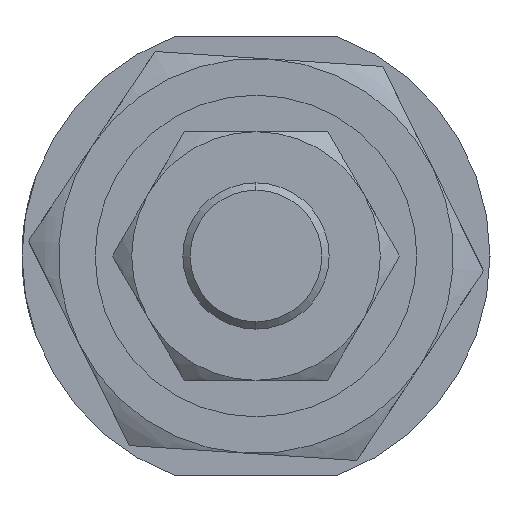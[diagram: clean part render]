
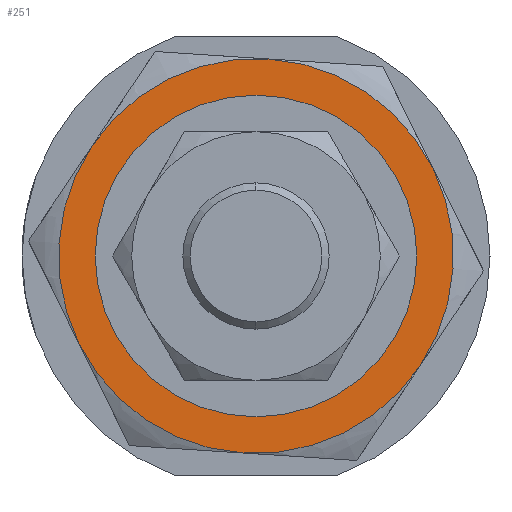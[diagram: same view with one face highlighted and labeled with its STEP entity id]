
A CAD part, left-side view. The second image highlights one B-rep face of the part: STEP entity #251.
In plain terms, the highlighted planar face has unit normal (-1, 0, 0) as drawn and (0, 0, -1) by its records, which use the part's own axes.
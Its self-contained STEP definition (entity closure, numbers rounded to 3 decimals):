
#11 = ORIENTED_EDGE ( 'NONE', *, *, #582, .T. ) ;
#73 = CIRCLE ( 'NONE', #1127, 13.5 ) ;
#159 = EDGE_CURVE ( 'NONE', #646, #1041, #2580, .T. ) ;
#177 = VERTEX_POINT ( 'NONE', #568 ) ;
#191 = DIRECTION ( 'NONE',  ( 1., 0., 0. ) ) ;
#228 = PLANE ( 'NONE',  #2148 ) ;
#251 = ADVANCED_FACE ( 'NONE', ( #2388, #407 ), #228, .F. ) ;
#388 = EDGE_LOOP ( 'NONE', ( #11, #1456 ) ) ;
#407 = FACE_OUTER_BOUND ( 'NONE', #2083, .T. ) ;
#474 = DIRECTION ( 'NONE',  ( 0., 0., 1. ) ) ;
#485 = CARTESIAN_POINT ( 'NONE',  ( 10., 0., -5. ) ) ;
#537 = EDGE_CURVE ( 'NONE', #177, #1601, #2543, .T. ) ;
#568 = CARTESIAN_POINT ( 'NONE',  ( 6.75, -11.691, -5. ) ) ;
#582 = EDGE_CURVE ( 'NONE', #2368, #1740, #1864, .T. ) ;
#646 = VERTEX_POINT ( 'NONE', #1519 ) ;
#656 = DIRECTION ( 'NONE',  ( 0., 0., 1. ) ) ;
#719 = DIRECTION ( 'NONE',  ( 0., 0., 1. ) ) ;
#735 = AXIS2_PLACEMENT_3D ( 'NONE', #1950, #2867, #961 ) ;
#828 = DIRECTION ( 'NONE',  ( 0., 0., 1. ) ) ;
#857 = DIRECTION ( 'NONE',  ( 1., 0., 0. ) ) ;
#893 = VERTEX_POINT ( 'NONE', #1807 ) ;
#932 = DIRECTION ( 'NONE',  ( 1., 0., 0. ) ) ;
#953 = AXIS2_PLACEMENT_3D ( 'NONE', #1056, #1288, #1541 ) ;
#961 = DIRECTION ( 'NONE',  ( 1., 0., 0. ) ) ;
#962 = ORIENTED_EDGE ( 'NONE', *, *, #1545, .F. ) ;
#1038 = EDGE_CURVE ( 'NONE', #1740, #2368, #2697, .T. ) ;
#1041 = VERTEX_POINT ( 'NONE', #1878 ) ;
#1056 = CARTESIAN_POINT ( 'NONE',  ( 0., 0., -5. ) ) ;
#1127 = AXIS2_PLACEMENT_3D ( 'NONE', #1351, #656, #191 ) ;
#1171 = EDGE_CURVE ( 'NONE', #1041, #3000, #2304, .T. ) ;
#1288 = DIRECTION ( 'NONE',  ( 0., 0., 1. ) ) ;
#1291 = ORIENTED_EDGE ( 'NONE', *, *, #2615, .F. ) ;
#1351 = CARTESIAN_POINT ( 'NONE',  ( 0., 0., -5. ) ) ;
#1386 = AXIS2_PLACEMENT_3D ( 'NONE', #1418, #474, #932 ) ;
#1418 = CARTESIAN_POINT ( 'NONE',  ( 0., 0., -5. ) ) ;
#1422 = CARTESIAN_POINT ( 'NONE',  ( 13.5, 0., -5. ) ) ;
#1456 = ORIENTED_EDGE ( 'NONE', *, *, #1038, .T. ) ;
#1519 = CARTESIAN_POINT ( 'NONE',  ( -6.75, 11.691, -5. ) ) ;
#1531 = CARTESIAN_POINT ( 'NONE',  ( 0., 0., -5. ) ) ;
#1541 = DIRECTION ( 'NONE',  ( 1., 0., 0. ) ) ;
#1545 = EDGE_CURVE ( 'NONE', #1601, #893, #1820, .T. ) ;
#1551 = DIRECTION ( 'NONE',  ( 0., 0., 1. ) ) ;
#1576 = DIRECTION ( 'NONE',  ( 1., 0., 0. ) ) ;
#1601 = VERTEX_POINT ( 'NONE', #1422 ) ;
#1605 = ORIENTED_EDGE ( 'NONE', *, *, #1171, .F. ) ;
#1727 = AXIS2_PLACEMENT_3D ( 'NONE', #1870, #719, #2303 ) ;
#1740 = VERTEX_POINT ( 'NONE', #2389 ) ;
#1807 = CARTESIAN_POINT ( 'NONE',  ( 6.75, 11.691, -5. ) ) ;
#1820 = CIRCLE ( 'NONE', #1727, 13.5 ) ;
#1864 = CIRCLE ( 'NONE', #2508, 10. ) ;
#1870 = CARTESIAN_POINT ( 'NONE',  ( 0., 0., -5. ) ) ;
#1878 = CARTESIAN_POINT ( 'NONE',  ( -13.5, 0., -5. ) ) ;
#1950 = CARTESIAN_POINT ( 'NONE',  ( 0., 0., -5. ) ) ;
#1952 = ORIENTED_EDGE ( 'NONE', *, *, #537, .F. ) ;
#1975 = CARTESIAN_POINT ( 'NONE',  ( -6.75, -11.691, -5. ) ) ;
#2083 = EDGE_LOOP ( 'NONE', ( #962, #1952, #1291, #1605, #2683, #2671 ) ) ;
#2111 = AXIS2_PLACEMENT_3D ( 'NONE', #2970, #2950, #1576 ) ;
#2148 = AXIS2_PLACEMENT_3D ( 'NONE', #2512, #2291, #2995 ) ;
#2291 = DIRECTION ( 'NONE',  ( 0., 0., 1. ) ) ;
#2303 = DIRECTION ( 'NONE',  ( 1., 0., 0. ) ) ;
#2304 = CIRCLE ( 'NONE', #735, 13.5 ) ;
#2368 = VERTEX_POINT ( 'NONE', #485 ) ;
#2388 = FACE_BOUND ( 'NONE', #388, .T. ) ;
#2389 = CARTESIAN_POINT ( 'NONE',  ( -10., 0., -5. ) ) ;
#2427 = DIRECTION ( 'NONE',  ( 1., 0., 0. ) ) ;
#2508 = AXIS2_PLACEMENT_3D ( 'NONE', #1531, #828, #2427 ) ;
#2512 = CARTESIAN_POINT ( 'NONE',  ( 0., 0., -5. ) ) ;
#2527 = CIRCLE ( 'NONE', #2569, 13.5 ) ;
#2543 = CIRCLE ( 'NONE', #953, 13.5 ) ;
#2569 = AXIS2_PLACEMENT_3D ( 'NONE', #2943, #1551, #857 ) ;
#2580 = CIRCLE ( 'NONE', #2111, 13.5 ) ;
#2615 = EDGE_CURVE ( 'NONE', #3000, #177, #2527, .T. ) ;
#2671 = ORIENTED_EDGE ( 'NONE', *, *, #2789, .F. ) ;
#2683 = ORIENTED_EDGE ( 'NONE', *, *, #159, .F. ) ;
#2697 = CIRCLE ( 'NONE', #1386, 10. ) ;
#2789 = EDGE_CURVE ( 'NONE', #893, #646, #73, .T. ) ;
#2867 = DIRECTION ( 'NONE',  ( 0., 0., 1. ) ) ;
#2943 = CARTESIAN_POINT ( 'NONE',  ( 0., 0., -5. ) ) ;
#2950 = DIRECTION ( 'NONE',  ( 0., 0., 1. ) ) ;
#2970 = CARTESIAN_POINT ( 'NONE',  ( 0., 0., -5. ) ) ;
#2995 = DIRECTION ( 'NONE',  ( 1., 0., 0. ) ) ;
#3000 = VERTEX_POINT ( 'NONE', #1975 ) ;
